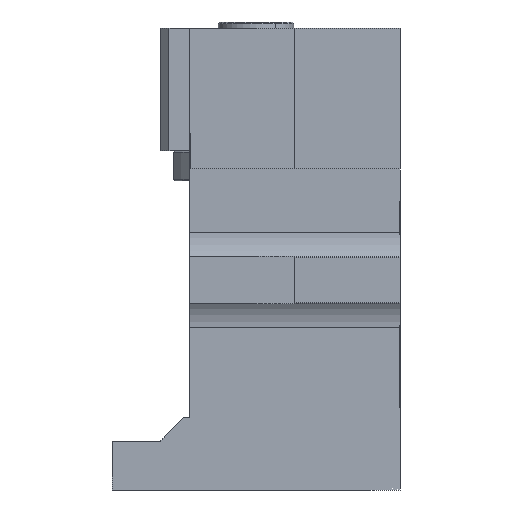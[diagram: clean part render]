
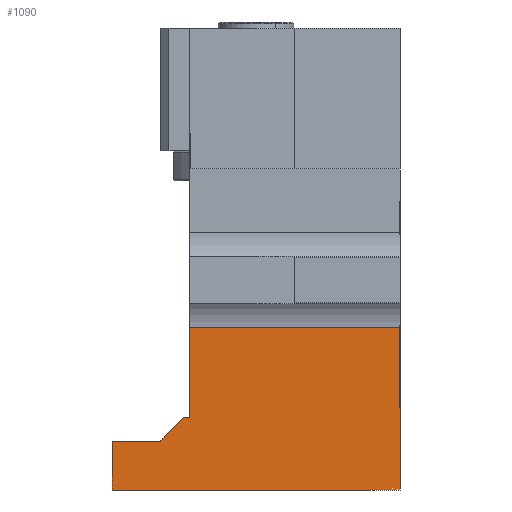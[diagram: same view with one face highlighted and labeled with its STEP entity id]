
A CAD part, left-side view. The second image highlights one B-rep face of the part: STEP entity #1090.
In plain terms, the highlighted planar face has unit normal (-1, 0, 0).
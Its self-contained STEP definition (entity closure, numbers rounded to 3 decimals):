
#3 = DIRECTION ( 'NONE',  ( 0., 1., 0. ) ) ;
#126 = ORIENTED_EDGE ( 'NONE', *, *, #4542, .T. ) ;
#298 = VERTEX_POINT ( 'NONE', #11776 ) ;
#1045 = VECTOR ( 'NONE', #13653, 1000. ) ;
#1072 = DIRECTION ( 'NONE',  ( 0., 1., 0. ) ) ;
#1090 = ADVANCED_FACE ( 'NONE', ( #8214 ), #7218, .F. ) ;
#1389 = VECTOR ( 'NONE', #7582, 1000. ) ;
#1968 = LINE ( 'NONE', #12414, #13453 ) ;
#2483 = ORIENTED_EDGE ( 'NONE', *, *, #14856, .T. ) ;
#3326 = EDGE_CURVE ( 'NONE', #13499, #8008, #12810, .T. ) ;
#3434 = VECTOR ( 'NONE', #3558, 1000. ) ;
#3558 = DIRECTION ( 'NONE',  ( 0., 1., 0. ) ) ;
#3629 = VECTOR ( 'NONE', #12575, 1000. ) ;
#3680 = DIRECTION ( 'NONE',  ( 1., 0., 0. ) ) ;
#3695 = DIRECTION ( 'NONE',  ( 0., 0., 1. ) ) ;
#4291 = CARTESIAN_POINT ( 'NONE',  ( -50., 22., -126. ) ) ;
#4542 = EDGE_CURVE ( 'NONE', #9978, #298, #9263, .T. ) ;
#4965 = ORIENTED_EDGE ( 'NONE', *, *, #11767, .T. ) ;
#5364 = DIRECTION ( 'NONE',  ( 0., 1., 0. ) ) ;
#5780 = VECTOR ( 'NONE', #3695, 1000. ) ;
#5782 = ORIENTED_EDGE ( 'NONE', *, *, #12941, .F. ) ;
#6853 = VERTEX_POINT ( 'NONE', #8959 ) ;
#7008 = CARTESIAN_POINT ( 'NONE',  ( -50., -50., -126. ) ) ;
#7218 = PLANE ( 'NONE',  #10764 ) ;
#7249 = VECTOR ( 'NONE', #1072, 1000. ) ;
#7275 = CARTESIAN_POINT ( 'NONE',  ( -50., -48., -126. ) ) ;
#7582 = DIRECTION ( 'NONE',  ( 0., -0.707, 0.707 ) ) ;
#8008 = VERTEX_POINT ( 'NONE', #15022 ) ;
#8105 = ORIENTED_EDGE ( 'NONE', *, *, #9866, .F. ) ;
#8179 = EDGE_LOOP ( 'NONE', ( #12178, #8105, #5782, #2483, #4965, #12536, #126, #15294 ) ) ;
#8214 = FACE_OUTER_BOUND ( 'NONE', #8179, .T. ) ;
#8959 = CARTESIAN_POINT ( 'NONE',  ( -50., 22., -87.992 ) ) ;
#8974 = LINE ( 'NONE', #7275, #5780 ) ;
#9263 = LINE ( 'NONE', #14210, #15202 ) ;
#9866 = EDGE_CURVE ( 'NONE', #13945, #8008, #10520, .T. ) ;
#9952 = VERTEX_POINT ( 'NONE', #13760 ) ;
#9978 = VERTEX_POINT ( 'NONE', #11412 ) ;
#10315 = LINE ( 'NONE', #4291, #3629 ) ;
#10455 = EDGE_CURVE ( 'NONE', #13499, #298, #14030, .T. ) ;
#10520 = LINE ( 'NONE', #12450, #1045 ) ;
#10632 = CARTESIAN_POINT ( 'NONE',  ( -50., -50., -142. ) ) ;
#10764 = AXIS2_PLACEMENT_3D ( 'NONE', #14304, #3680, #11948 ) ;
#11412 = CARTESIAN_POINT ( 'NONE',  ( -50., 22., -118. ) ) ;
#11767 = EDGE_CURVE ( 'NONE', #9952, #6853, #1968, .T. ) ;
#11776 = CARTESIAN_POINT ( 'NONE',  ( -50., 24., -118. ) ) ;
#11835 = EDGE_CURVE ( 'NONE', #9978, #6853, #10315, .T. ) ;
#11948 = DIRECTION ( 'NONE',  ( 0., 1., 0. ) ) ;
#12118 = CARTESIAN_POINT ( 'NONE',  ( -50., -48., -142. ) ) ;
#12178 = ORIENTED_EDGE ( 'NONE', *, *, #3326, .T. ) ;
#12326 = CARTESIAN_POINT ( 'NONE',  ( -50., 32., -126. ) ) ;
#12414 = CARTESIAN_POINT ( 'NONE',  ( -50., 22., -87.992 ) ) ;
#12450 = CARTESIAN_POINT ( 'NONE',  ( -50., 48., -142. ) ) ;
#12536 = ORIENTED_EDGE ( 'NONE', *, *, #11835, .F. ) ;
#12575 = DIRECTION ( 'NONE',  ( 0., 0., 1. ) ) ;
#12810 = LINE ( 'NONE', #7008, #7249 ) ;
#12941 = EDGE_CURVE ( 'NONE', #14956, #13945, #14939, .T. ) ;
#13453 = VECTOR ( 'NONE', #5364, 1000. ) ;
#13499 = VERTEX_POINT ( 'NONE', #14259 ) ;
#13653 = DIRECTION ( 'NONE',  ( 0., 0., 1. ) ) ;
#13760 = CARTESIAN_POINT ( 'NONE',  ( -50., -48., -87.992 ) ) ;
#13945 = VERTEX_POINT ( 'NONE', #14044 ) ;
#14030 = LINE ( 'NONE', #12326, #1389 ) ;
#14044 = CARTESIAN_POINT ( 'NONE',  ( -50., 48., -142. ) ) ;
#14210 = CARTESIAN_POINT ( 'NONE',  ( -50., 22., -118. ) ) ;
#14259 = CARTESIAN_POINT ( 'NONE',  ( -50., 32., -126. ) ) ;
#14304 = CARTESIAN_POINT ( 'NONE',  ( -50., 22., -126. ) ) ;
#14856 = EDGE_CURVE ( 'NONE', #14956, #9952, #8974, .T. ) ;
#14939 = LINE ( 'NONE', #10632, #3434 ) ;
#14956 = VERTEX_POINT ( 'NONE', #12118 ) ;
#15022 = CARTESIAN_POINT ( 'NONE',  ( -50., 48., -126. ) ) ;
#15202 = VECTOR ( 'NONE', #3, 1000. ) ;
#15294 = ORIENTED_EDGE ( 'NONE', *, *, #10455, .F. ) ;
